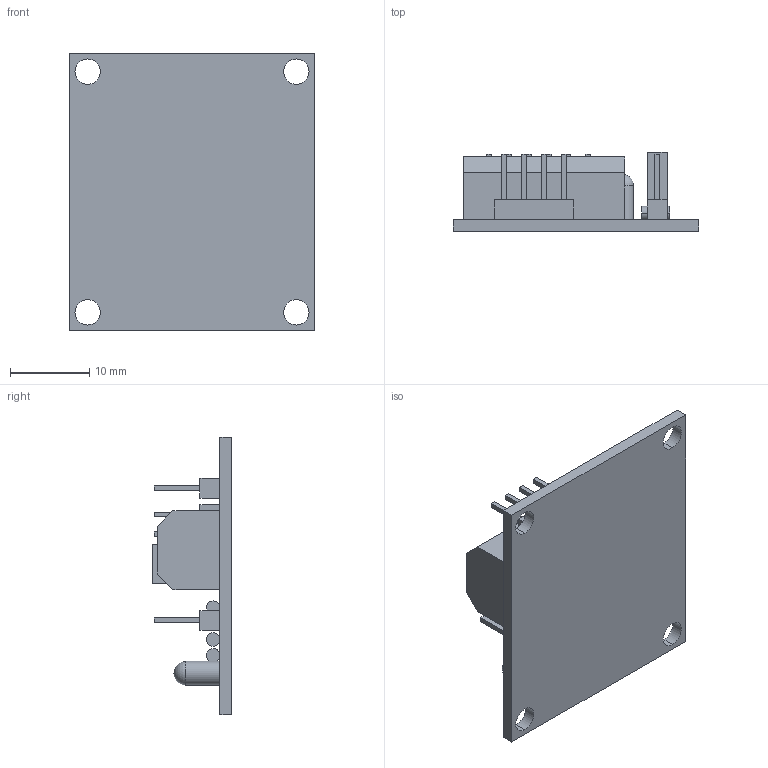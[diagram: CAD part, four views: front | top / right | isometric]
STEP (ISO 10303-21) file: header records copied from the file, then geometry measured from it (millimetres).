
FILE_DESCRIPTION (( 'STEP AP203' ), '1' );
FILE_NAME ('STEPPER DRIVER.STEP', '2015-03-30T08:00:05', ( '' ), ( '' ), 'SwSTEP 2.0', 'SolidWorks 2014', '' );
FILE_SCHEMA (( 'CONFIG_CONTROL_DESIGN' ));
Length unit declared in the file: millimetre
Products named in the file (1): STEPPER DRIVER
Bounding box: 31 x 10 x 35 mm (x, y, z)
Volume: 3608 mm3; surface area: 3590.3 mm2
Topology: 2 solids, 2 shells, 144 faces, 354 edges, 236 vertices
Faces by surface type: plane 112, cylinder 28, sphere 4
Entity records: 4213 total; most frequent: CARTESIAN_POINT 715, DIRECTION 688, ORIENTED_EDGE 684, EDGE_CURVE 342, VECTOR 286, LINE 286, VERTEX_POINT 228, AXIS2_PLACEMENT_3D 201
